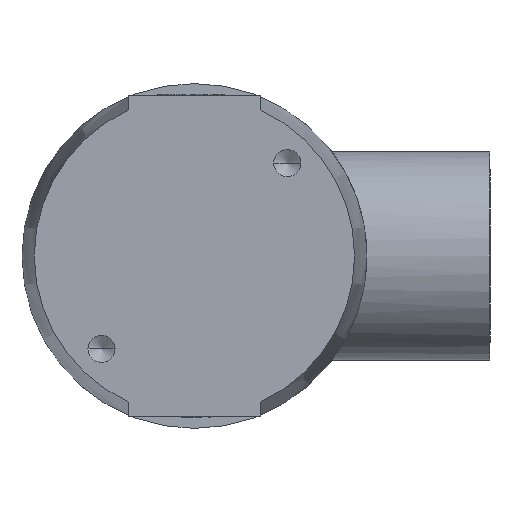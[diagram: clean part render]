
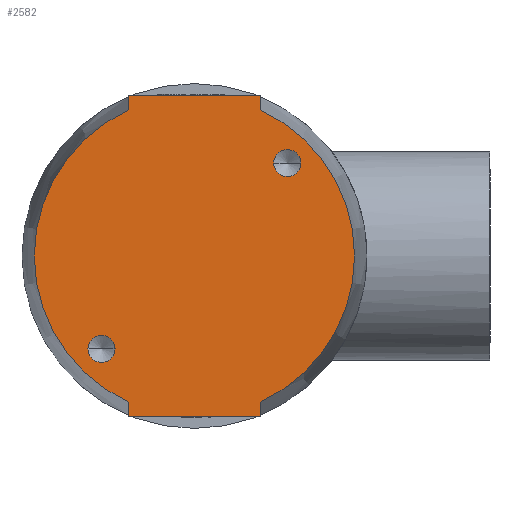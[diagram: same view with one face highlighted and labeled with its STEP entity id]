
A CAD part, front view. The second image highlights one B-rep face of the part: STEP entity #2582.
In plain terms, the highlighted planar face has unit normal (0, -1, 0).
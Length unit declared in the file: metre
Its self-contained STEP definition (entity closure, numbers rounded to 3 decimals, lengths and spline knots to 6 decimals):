
#17 = DIRECTION ( 'NONE',  ( 0., 0., 1. ) ) ;
#229 = VERTEX_POINT ( 'NONE', #10256 ) ;
#387 = DIRECTION ( 'NONE',  ( 0., 1., 0. ) ) ;
#542 = AXIS2_PLACEMENT_3D ( 'NONE', #6594, #692, #7559 ) ;
#568 = VERTEX_POINT ( 'NONE', #12014 ) ;
#577 = DIRECTION ( 'NONE',  ( 0., 1., 0. ) ) ;
#652 = VERTEX_POINT ( 'NONE', #5417 ) ;
#663 = VERTEX_POINT ( 'NONE', #3437 ) ;
#692 = DIRECTION ( 'NONE',  ( 0., 1., 0. ) ) ;
#699 = AXIS2_PLACEMENT_3D ( 'NONE', #10435, #10477, #10505 ) ;
#1156 = AXIS2_PLACEMENT_3D ( 'NONE', #6490, #577, #7448 ) ;
#1232 = DIRECTION ( 'NONE',  ( 1., 0., 0. ) ) ;
#1247 = DIRECTION ( 'NONE',  ( 0., -1., 0. ) ) ;
#1266 = LINE ( 'NONE', #10237, #3557 ) ;
#1314 = AXIS2_PLACEMENT_3D ( 'NONE', #11733, #1247, #1232 ) ;
#1330 = ORIENTED_EDGE ( 'NONE', *, *, #4566, .F. ) ;
#1347 = ORIENTED_EDGE ( 'NONE', *, *, #5919, .F. ) ;
#1918 = ORIENTED_EDGE ( 'NONE', *, *, #6034, .F. ) ;
#2128 = ORIENTED_EDGE ( 'NONE', *, *, #3434, .T. ) ;
#2277 = CARTESIAN_POINT ( 'NONE',  ( -0.008, 0., -0.018637 ) ) ;
#2282 = CARTESIAN_POINT ( 'NONE',  ( 0.009664, 0., 0.011314 ) ) ;
#2309 = VERTEX_POINT ( 'NONE', #11471 ) ;
#2315 = LINE ( 'NONE', #2277, #7762 ) ;
#2443 = VECTOR ( 'NONE', #10794, 1. ) ;
#2506 = EDGE_CURVE ( 'NONE', #8354, #3159, #11836, .T. ) ;
#2582 = ADVANCED_FACE ( 'NONE', ( #4059, #10841, #8210 ), #11965, .F. ) ;
#3127 = VECTOR ( 'NONE', #4266, 1. ) ;
#3159 = VERTEX_POINT ( 'NONE', #8186 ) ;
#3174 = CARTESIAN_POINT ( 'NONE',  ( 0.008, 0., -0.0195 ) ) ;
#3434 = EDGE_CURVE ( 'NONE', #663, #8857, #7589, .T. ) ;
#3437 = CARTESIAN_POINT ( 'NONE',  ( 0.008, 0., 0.017784 ) ) ;
#3557 = VECTOR ( 'NONE', #10479, 1. ) ;
#3627 = ORIENTED_EDGE ( 'NONE', *, *, #7844, .F. ) ;
#3726 = VECTOR ( 'NONE', #12606, 1. ) ;
#3756 = VECTOR ( 'NONE', #8479, 1. ) ;
#3960 = EDGE_LOOP ( 'NONE', ( #10891, #10085, #11229, #3627, #11569, #12386, #2128, #10786 ) ) ;
#4059 = FACE_BOUND ( 'NONE', #7107, .T. ) ;
#4115 = ORIENTED_EDGE ( 'NONE', *, *, #4549, .F. ) ;
#4266 = DIRECTION ( 'NONE',  ( -1., 0., 0. ) ) ;
#4549 = EDGE_CURVE ( 'NONE', #5217, #568, #9759, .T. ) ;
#4566 = EDGE_CURVE ( 'NONE', #229, #652, #12253, .T. ) ;
#4589 = AXIS2_PLACEMENT_3D ( 'NONE', #12150, #12177, #12192 ) ;
#4645 = CIRCLE ( 'NONE', #1314, 0.00165 ) ;
#5217 = VERTEX_POINT ( 'NONE', #2282 ) ;
#5417 = CARTESIAN_POINT ( 'NONE',  ( -0.012964, 0., -0.011314 ) ) ;
#5727 = LINE ( 'NONE', #11113, #3127 ) ;
#5876 = CARTESIAN_POINT ( 'NONE',  ( 0.008, 0., 0.0195 ) ) ;
#5919 = EDGE_CURVE ( 'NONE', #568, #5217, #4645, .T. ) ;
#6034 = EDGE_CURVE ( 'NONE', #652, #229, #6647, .T. ) ;
#6092 = EDGE_CURVE ( 'NONE', #9518, #2309, #6349, .T. ) ;
#6349 = LINE ( 'NONE', #12463, #3726 ) ;
#6448 = CARTESIAN_POINT ( 'NONE',  ( -0.008, 0., -0.0195 ) ) ;
#6490 = CARTESIAN_POINT ( 'NONE',  ( 0., 0., 0. ) ) ;
#6545 = EDGE_CURVE ( 'NONE', #9518, #8857, #1266, .T. ) ;
#6594 = CARTESIAN_POINT ( 'NONE',  ( 0., 0., 0. ) ) ;
#6596 = VERTEX_POINT ( 'NONE', #6448 ) ;
#6647 = CIRCLE ( 'NONE', #4589, 0.00165 ) ;
#6911 = CIRCLE ( 'NONE', #1156, 0.019501 ) ;
#7067 = CIRCLE ( 'NONE', #542, 0.019501 ) ;
#7107 = EDGE_LOOP ( 'NONE', ( #1347, #4115 ) ) ;
#7180 = EDGE_CURVE ( 'NONE', #8249, #2309, #7067, .T. ) ;
#7448 = DIRECTION ( 'NONE',  ( 0., 0., 1. ) ) ;
#7559 = DIRECTION ( 'NONE',  ( 0., 0., 1. ) ) ;
#7589 = LINE ( 'NONE', #10713, #2443 ) ;
#7762 = VECTOR ( 'NONE', #9083, 1. ) ;
#7844 = EDGE_CURVE ( 'NONE', #8354, #6596, #5727, .T. ) ;
#8100 = EDGE_LOOP ( 'NONE', ( #1330, #1918 ) ) ;
#8186 = CARTESIAN_POINT ( 'NONE',  ( 0.008, 0., -0.017784 ) ) ;
#8210 = FACE_OUTER_BOUND ( 'NONE', #3960, .T. ) ;
#8249 = VERTEX_POINT ( 'NONE', #9954 ) ;
#8354 = VERTEX_POINT ( 'NONE', #3174 ) ;
#8479 = DIRECTION ( 'NONE',  ( 0., 0., 1. ) ) ;
#8503 = EDGE_CURVE ( 'NONE', #663, #3159, #6911, .T. ) ;
#8857 = VERTEX_POINT ( 'NONE', #5876 ) ;
#9042 = CARTESIAN_POINT ( 'NONE',  ( 0.008, 0., -0.018637 ) ) ;
#9083 = DIRECTION ( 'NONE',  ( 0., 0., -1. ) ) ;
#9518 = VERTEX_POINT ( 'NONE', #11536 ) ;
#9759 = CIRCLE ( 'NONE', #11465, 0.00165 ) ;
#9954 = CARTESIAN_POINT ( 'NONE',  ( -0.008, 0., -0.017784 ) ) ;
#10085 = ORIENTED_EDGE ( 'NONE', *, *, #7180, .F. ) ;
#10128 = CARTESIAN_POINT ( 'NONE',  ( 0.011314, 0., 0.011314 ) ) ;
#10150 = DIRECTION ( 'NONE',  ( 0., -1., 0. ) ) ;
#10173 = DIRECTION ( 'NONE',  ( 1., 0., 0. ) ) ;
#10237 = CARTESIAN_POINT ( 'NONE',  ( 0., 0., 0.0195 ) ) ;
#10256 = CARTESIAN_POINT ( 'NONE',  ( -0.009664, 0., -0.011314 ) ) ;
#10435 = CARTESIAN_POINT ( 'NONE',  ( -0.011314, 0., -0.011314 ) ) ;
#10477 = DIRECTION ( 'NONE',  ( 0., -1., 0. ) ) ;
#10479 = DIRECTION ( 'NONE',  ( 1., 0., 0. ) ) ;
#10505 = DIRECTION ( 'NONE',  ( 1., 0., 0. ) ) ;
#10713 = CARTESIAN_POINT ( 'NONE',  ( 0.008, 0., 0.018637 ) ) ;
#10786 = ORIENTED_EDGE ( 'NONE', *, *, #6545, .F. ) ;
#10794 = DIRECTION ( 'NONE',  ( 0., 0., 1. ) ) ;
#10841 = FACE_BOUND ( 'NONE', #8100, .T. ) ;
#10891 = ORIENTED_EDGE ( 'NONE', *, *, #6092, .T. ) ;
#11113 = CARTESIAN_POINT ( 'NONE',  ( 0., 0., -0.0195 ) ) ;
#11229 = ORIENTED_EDGE ( 'NONE', *, *, #12521, .T. ) ;
#11334 = CARTESIAN_POINT ( 'NONE',  ( -0.019735, 0., -0.0195 ) ) ;
#11465 = AXIS2_PLACEMENT_3D ( 'NONE', #10128, #10150, #10173 ) ;
#11471 = CARTESIAN_POINT ( 'NONE',  ( -0.008, 0., 0.017784 ) ) ;
#11536 = CARTESIAN_POINT ( 'NONE',  ( -0.008, 0., 0.0195 ) ) ;
#11569 = ORIENTED_EDGE ( 'NONE', *, *, #2506, .T. ) ;
#11733 = CARTESIAN_POINT ( 'NONE',  ( 0.011314, 0., 0.011314 ) ) ;
#11836 = LINE ( 'NONE', #9042, #3756 ) ;
#11965 = PLANE ( 'NONE',  #12584 ) ;
#12014 = CARTESIAN_POINT ( 'NONE',  ( 0.012964, 0., 0.011314 ) ) ;
#12150 = CARTESIAN_POINT ( 'NONE',  ( -0.011314, 0., -0.011314 ) ) ;
#12177 = DIRECTION ( 'NONE',  ( 0., -1., 0. ) ) ;
#12192 = DIRECTION ( 'NONE',  ( 1., 0., 0. ) ) ;
#12253 = CIRCLE ( 'NONE', #699, 0.00165 ) ;
#12386 = ORIENTED_EDGE ( 'NONE', *, *, #8503, .F. ) ;
#12463 = CARTESIAN_POINT ( 'NONE',  ( -0.008, 0., 0.018637 ) ) ;
#12521 = EDGE_CURVE ( 'NONE', #8249, #6596, #2315, .T. ) ;
#12584 = AXIS2_PLACEMENT_3D ( 'NONE', #11334, #387, #17 ) ;
#12606 = DIRECTION ( 'NONE',  ( 0., 0., -1. ) ) ;
